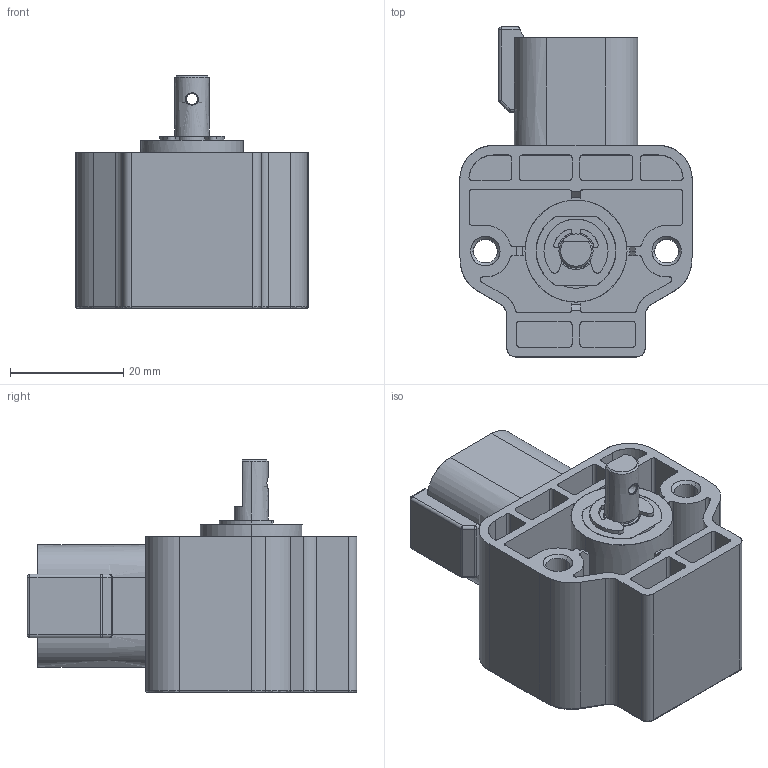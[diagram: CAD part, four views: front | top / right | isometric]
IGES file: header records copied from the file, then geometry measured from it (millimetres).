
Start section: SolidWorks IGES file using analytic representation for surfaces
Global section: file name: \\srv4gefran\dir-cat\Disegni Catalogo\Mobile\GRA\GRA 6P\GRA 6P DEUTSCH.IGS; native system: SolidWorks 2015; preprocessor: SolidWorks 2015; author: Loda-w1; date: 160202.122316; units: millimetre
Bounding box: 41 x 58.2 x 41.07 mm (x, y, z)
Surface area: 18818 mm2 (no closed solid volume)
Topology: 0 solids, 0 shells, 490 faces, 6469 edges, 7722 vertices
Faces by surface type: bspline 288, revolution 202
